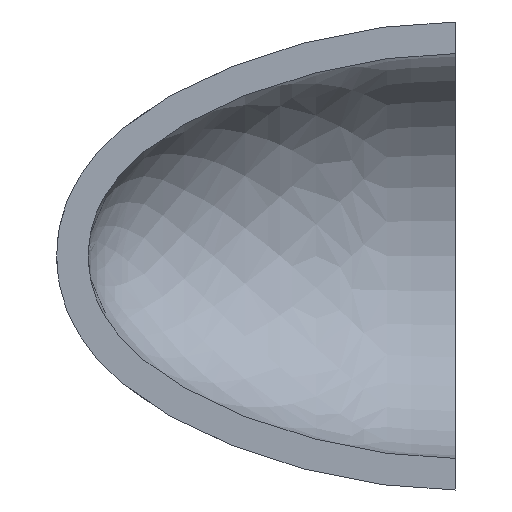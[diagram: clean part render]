
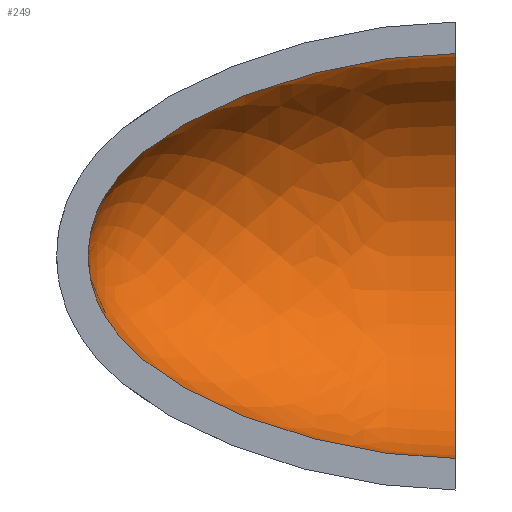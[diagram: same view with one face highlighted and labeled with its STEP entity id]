
A CAD part, left-side view. The second image highlights one B-rep face of the part: STEP entity #249.
In plain terms, the highlighted face is a revolution surface.
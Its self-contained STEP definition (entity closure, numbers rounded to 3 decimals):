
#100=CARTESIAN_POINT('Axis2P3D Location',(0.,0.,0.)) ;
#104=CARTESIAN_POINT('Vertex',(0.,0.,64.)) ;
#106=CARTESIAN_POINT('Vertex',(0.,0.,-64.)) ;
#132=CARTESIAN_POINT('Control Point',(0.,0.,-64.)) ;
#133=CARTESIAN_POINT('Control Point',(0.,3.102,-64.)) ;
#134=CARTESIAN_POINT('Control Point',(0.,6.251,-63.909)) ;
#135=CARTESIAN_POINT('Control Point',(0.,9.443,-63.729)) ;
#136=CARTESIAN_POINT('Control Point',(0.,16.211,-63.177)) ;
#137=CARTESIAN_POINT('Control Point',(0.,23.1,-62.27)) ;
#138=CARTESIAN_POINT('Control Point',(0.,26.73,-61.701)) ;
#139=CARTESIAN_POINT('Control Point',(0.,33.905,-60.406)) ;
#140=CARTESIAN_POINT('Control Point',(0.,41.101,-58.77)) ;
#141=CARTESIAN_POINT('Control Point',(0.,44.64,-57.884)) ;
#142=CARTESIAN_POINT('Control Point',(0.,52.479,-55.736)) ;
#143=CARTESIAN_POINT('Control Point',(0.,60.216,-53.187)) ;
#144=CARTESIAN_POINT('Control Point',(0.,64.425,-51.663)) ;
#145=CARTESIAN_POINT('Control Point',(0.,72.101,-48.605)) ;
#146=CARTESIAN_POINT('Control Point',(0.,79.461,-45.097)) ;
#147=CARTESIAN_POINT('Control Point',(0.,82.769,-43.383)) ;
#148=CARTESIAN_POINT('Control Point',(0.,88.141,-40.336)) ;
#149=CARTESIAN_POINT('Control Point',(0.,93.155,-36.993)) ;
#150=CARTESIAN_POINT('Control Point',(0.,95.112,-35.594)) ;
#151=CARTESIAN_POINT('Control Point',(0.,98.653,-32.869)) ;
#152=CARTESIAN_POINT('Control Point',(0.,101.89,-29.97)) ;
#153=CARTESIAN_POINT('Control Point',(0.,103.333,-28.573)) ;
#154=CARTESIAN_POINT('Control Point',(0.,105.944,-25.825)) ;
#155=CARTESIAN_POINT('Control Point',(0.,108.231,-22.948)) ;
#156=CARTESIAN_POINT('Control Point',(0.,109.246,-21.543)) ;
#157=CARTESIAN_POINT('Control Point',(0.,110.849,-19.077)) ;
#158=CARTESIAN_POINT('Control Point',(0.,112.197,-16.531)) ;
#159=CARTESIAN_POINT('Control Point',(0.,112.716,-15.451)) ;
#160=CARTESIAN_POINT('Control Point',(0.,113.96,-12.565)) ;
#161=CARTESIAN_POINT('Control Point',(0.,114.879,-9.578)) ;
#162=CARTESIAN_POINT('Control Point',(0.,115.322,-7.683)) ;
#163=CARTESIAN_POINT('Control Point',(0.,115.754,-5.021)) ;
#164=CARTESIAN_POINT('Control Point',(0.,115.948,-2.272)) ;
#165=CARTESIAN_POINT('Control Point',(0.,115.983,-1.521)) ;
#166=CARTESIAN_POINT('Control Point',(0.,116.,-0.764)) ;
#167=CARTESIAN_POINT('Control Point',(0.,116.,0.)) ;
#168=CARTESIAN_POINT('Vertex',(0.,116.,0.)) ;
#172=CARTESIAN_POINT('Control Point',(0.,0.,64.)) ;
#173=CARTESIAN_POINT('Control Point',(0.,3.102,64.)) ;
#174=CARTESIAN_POINT('Control Point',(0.,6.251,63.909)) ;
#175=CARTESIAN_POINT('Control Point',(0.,9.443,63.729)) ;
#176=CARTESIAN_POINT('Control Point',(0.,16.211,63.177)) ;
#177=CARTESIAN_POINT('Control Point',(0.,23.1,62.27)) ;
#178=CARTESIAN_POINT('Control Point',(0.,26.73,61.701)) ;
#179=CARTESIAN_POINT('Control Point',(0.,33.905,60.406)) ;
#180=CARTESIAN_POINT('Control Point',(0.,41.101,58.77)) ;
#181=CARTESIAN_POINT('Control Point',(0.,44.64,57.884)) ;
#182=CARTESIAN_POINT('Control Point',(0.,52.479,55.736)) ;
#183=CARTESIAN_POINT('Control Point',(0.,60.216,53.187)) ;
#184=CARTESIAN_POINT('Control Point',(0.,64.425,51.663)) ;
#185=CARTESIAN_POINT('Control Point',(0.,72.101,48.605)) ;
#186=CARTESIAN_POINT('Control Point',(0.,79.461,45.097)) ;
#187=CARTESIAN_POINT('Control Point',(0.,82.769,43.383)) ;
#188=CARTESIAN_POINT('Control Point',(0.,88.141,40.336)) ;
#189=CARTESIAN_POINT('Control Point',(0.,93.155,36.993)) ;
#190=CARTESIAN_POINT('Control Point',(0.,95.112,35.594)) ;
#191=CARTESIAN_POINT('Control Point',(0.,98.653,32.869)) ;
#192=CARTESIAN_POINT('Control Point',(0.,101.89,29.97)) ;
#193=CARTESIAN_POINT('Control Point',(0.,103.333,28.573)) ;
#194=CARTESIAN_POINT('Control Point',(0.,105.944,25.825)) ;
#195=CARTESIAN_POINT('Control Point',(0.,108.231,22.948)) ;
#196=CARTESIAN_POINT('Control Point',(0.,109.246,21.543)) ;
#197=CARTESIAN_POINT('Control Point',(0.,110.849,19.077)) ;
#198=CARTESIAN_POINT('Control Point',(0.,112.197,16.531)) ;
#199=CARTESIAN_POINT('Control Point',(0.,112.716,15.451)) ;
#200=CARTESIAN_POINT('Control Point',(0.,113.96,12.565)) ;
#201=CARTESIAN_POINT('Control Point',(0.,114.879,9.578)) ;
#202=CARTESIAN_POINT('Control Point',(0.,115.322,7.683)) ;
#203=CARTESIAN_POINT('Control Point',(0.,115.754,5.021)) ;
#204=CARTESIAN_POINT('Control Point',(0.,115.948,2.272)) ;
#205=CARTESIAN_POINT('Control Point',(0.,115.983,1.521)) ;
#206=CARTESIAN_POINT('Control Point',(0.,116.,0.764)) ;
#207=CARTESIAN_POINT('Control Point',(0.,116.,0.)) ;
#219=CARTESIAN_POINT('Control Point',(0.,0.,64.)) ;
#220=CARTESIAN_POINT('Control Point',(0.,6.79,64.)) ;
#221=CARTESIAN_POINT('Control Point',(0.,14.003,63.562)) ;
#222=CARTESIAN_POINT('Control Point',(0.,21.636,62.672)) ;
#223=CARTESIAN_POINT('Control Point',(0.,37.48,59.982)) ;
#224=CARTESIAN_POINT('Control Point',(0.,53.782,55.504)) ;
#225=CARTESIAN_POINT('Control Point',(0.,61.871,52.828)) ;
#226=CARTESIAN_POINT('Control Point',(0.,73.569,48.177)) ;
#227=CARTESIAN_POINT('Control Point',(0.,84.1,42.666)) ;
#228=CARTESIAN_POINT('Control Point',(0.,87.452,40.738)) ;
#229=CARTESIAN_POINT('Control Point',(0.,93.784,36.715)) ;
#230=CARTESIAN_POINT('Control Point',(0.,99.277,32.396)) ;
#231=CARTESIAN_POINT('Control Point',(0.,101.79,30.171)) ;
#232=CARTESIAN_POINT('Control Point',(0.,106.313,25.616)) ;
#233=CARTESIAN_POINT('Control Point',(0.,109.809,20.878)) ;
#234=CARTESIAN_POINT('Control Point',(0.,111.294,18.47)) ;
#235=CARTESIAN_POINT('Control Point',(0.,113.758,13.573)) ;
#236=CARTESIAN_POINT('Control Point',(0.,115.239,8.415)) ;
#237=CARTESIAN_POINT('Control Point',(0.,115.741,5.747)) ;
#238=CARTESIAN_POINT('Control Point',(0.,116.,2.95)) ;
#239=CARTESIAN_POINT('Control Point',(0.,116.,0.)) ;
#240=CARTESIAN_POINT('Axis1P Location',(0.,0.,0.)) ;
#101=DIRECTION('Axis2P3D Direction',(0.,1.,0.)) ;
#241=DIRECTION('Axis1P Direction',(0.,1.,0.)) ;
#102=AXIS2_PLACEMENT_3D('Circle Axis2P3D',#100,#101,$) ;
#245=ORIENTED_EDGE('',*,*,#108,.F.) ;
#246=ORIENTED_EDGE('',*,*,#208,.T.) ;
#247=ORIENTED_EDGE('',*,*,#170,.F.) ;
#249=ADVANCED_FACE('PartBody',(#248),#243,.F.) ;
#242=AXIS1_PLACEMENT('Revolution Surface Axis1P',#240,#241) ;
#131=B_SPLINE_CURVE_WITH_KNOTS('',5,(#132,#133,#134,#135,#136,#137,#138,#139,#140,#141,#142,#143,#144,#145,#146,#147,#148,#149,#150,#151,#152,#153,#154,#155,#156,#157,#158,#159,#160,#161,#162,#163,#164,#165,#166,#167),.UNSPECIFIED.,.F.,.U.,(6,3,3,3,3,3,3,3,3,3,3,6),(0.,22.782,47.788,72.024,101.657,126.943,144.05,159.145,172.998,182.997,199.352,205.429),.UNSPECIFIED.) ;
#171=B_SPLINE_CURVE_WITH_KNOTS('',5,(#172,#173,#174,#175,#176,#177,#178,#179,#180,#181,#182,#183,#184,#185,#186,#187,#188,#189,#190,#191,#192,#193,#194,#195,#196,#197,#198,#199,#200,#201,#202,#203,#204,#205,#206,#207),.UNSPECIFIED.,.F.,.U.,(6,3,3,3,3,3,3,3,3,3,3,6),(0.,22.782,47.788,72.024,101.657,126.943,144.05,159.145,172.998,182.997,199.352,205.429),.UNSPECIFIED.) ;
#218=B_SPLINE_CURVE_WITH_KNOTS('',5,(#219,#220,#221,#222,#223,#224,#225,#226,#227,#228,#229,#230,#231,#232,#233,#234,#235,#236,#237,#238,#239),.UNSPECIFIED.,.F.,.U.,(6,3,3,3,3,3,6),(0.,36.531,73.062,91.327,109.592,127.858,146.123),.UNSPECIFIED.) ;
#103=CIRCLE('generated circle',#102,64.) ;
#108=EDGE_CURVE('',#105,#107,#103,.T.) ;
#170=EDGE_CURVE('',#107,#169,#131,.T.) ;
#208=EDGE_CURVE('',#105,#169,#171,.T.) ;
#244=EDGE_LOOP('',(#245,#246,#247)) ;
#248=FACE_OUTER_BOUND('',#244,.T.) ;
#243=SURFACE_OF_REVOLUTION('Surface of Revolution',#218,#242) ;
#105=VERTEX_POINT('',#104) ;
#107=VERTEX_POINT('',#106) ;
#169=VERTEX_POINT('',#168) ;
